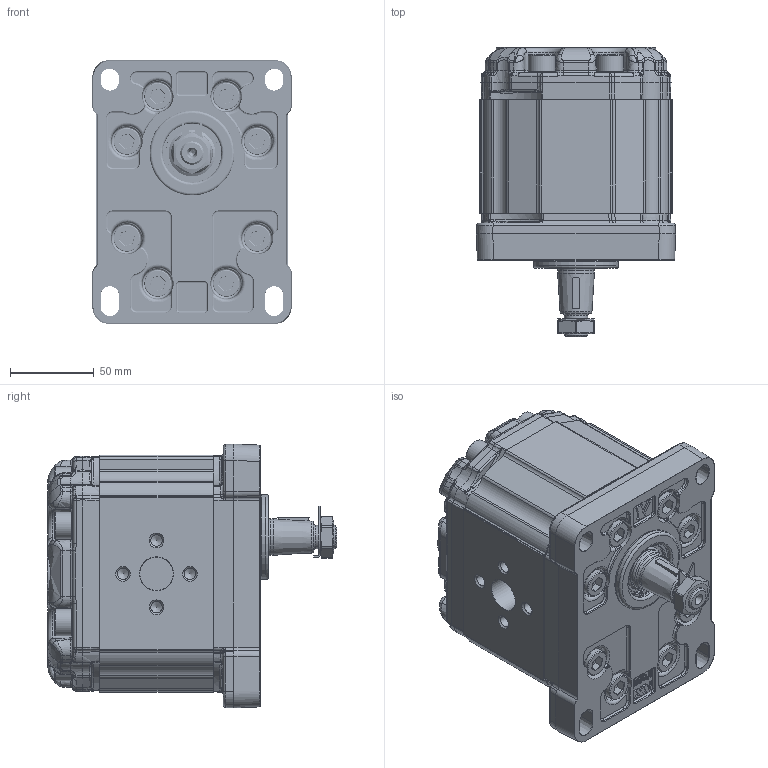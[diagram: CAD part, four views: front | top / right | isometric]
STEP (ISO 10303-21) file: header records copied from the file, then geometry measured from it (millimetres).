
FILE_DESCRIPTION(/* description */ ('Unknown'),/* implementation_level */ '2;1');
FILE_NAME(/* name */ 'X3R6801AAAE',/* time_stamp */ '2026-06-04T19:17:45+02:00',/* author */ ('Unknown'),/* organization */ ('Unknown'),/* preprocessor_version */ 'ST-DEVELOPER v16.7',/* originating_system */ 'Solid Edge',/* authorisation */ 'Unknown');
FILE_SCHEMA (('AUTOMOTIVE_DESIGN {1 0 10303 214 3 1 1}'));
Products named in the file (5): X3R6801AAAE; X3R01; 3A; X3AAH68; XR301-E
Assembly tree (4 placements, depth 2):
  X3R6801AAAE
    X3R01
    3A
    X3AAH68
    XR301-E
Bounding box: 119.2 x 173.5 x 157.8 mm (x, y, z)
Volume: 1827406.9 mm3; surface area: 215302.2 mm2
Topology: 4 solids, 5 shells, 3996 faces, 12489 edges, 7785 vertices
Faces by surface type: cylinder 1697, plane 1237, bspline 699, torus 200, cone 150, sphere 13
Full cylindrical faces by diameter (mm): 2 x2, 6.8 x8, 10 x16, 10.35 x30, 10.5 x1, 14 x2, 15.25 x1, 15.8 x16, 16 x16, 20 x2, 22 x1, 24.98 x1, 25 x2, 25.968 x1, 28.16 x1, 31 x1, 31.293 x1, 32.742 x1, 34.956 x1, 35 x1, 35.2 x1, 37 x1, 50.8 x1
Entity records: 283307 total; most frequent: CARTESIAN_POINT 152958, ORIENTED_EDGE 23990, DIRECTION 18701, EDGE_CURVE 11995, VERTEX_POINT 7641, AXIS2_PLACEMENT_3D 7247, FACE_BOUND 4448, EDGE_LOOP 4438
